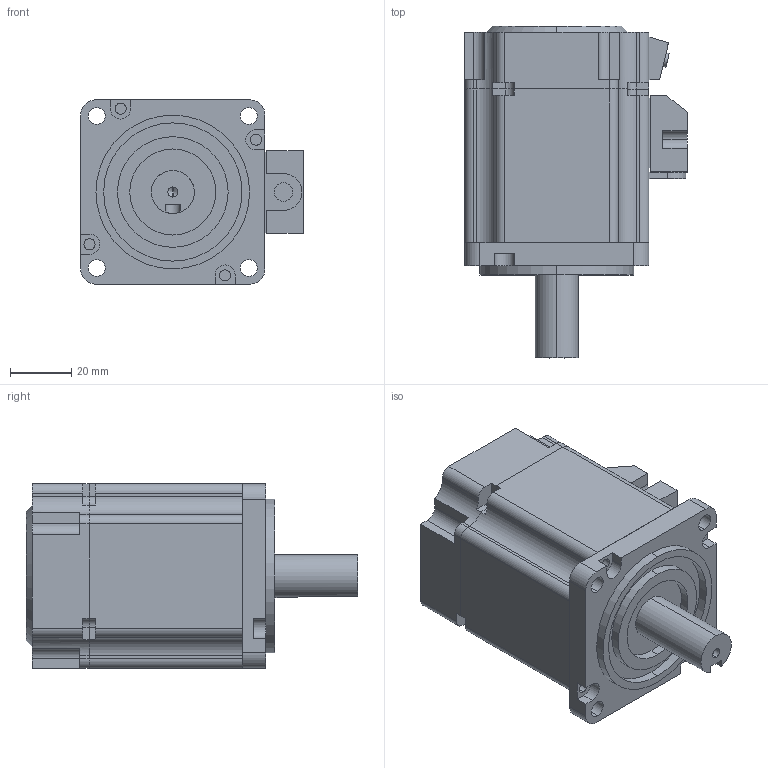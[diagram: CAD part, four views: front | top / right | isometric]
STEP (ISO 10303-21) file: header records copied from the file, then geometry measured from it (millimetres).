
FILE_DESCRIPTION (( 'STEP AP214' ), '1' );
FILE_NAME ('TSM60JP200-48-5-N.STEP', '2020-12-11T08:12:14', ( '' ), ( '' ), 'SwSTEP 2.0', 'SolidWorks 2020', '' );
FILE_SCHEMA (( 'AUTOMOTIVE_DESIGN' ));
Length unit declared in the file: millimetre
Products named in the file (3): ヶ裔; TSM60JP200-48-5-N; 綴裔
Assembly tree (2 placements, depth 2):
  TSM60JP200-48-5-N
    綴裔
    ヶ裔
Bounding box: 72.5 x 108 x 60 mm (x, y, z)
Volume: 258961.3 mm3; surface area: 45545.2 mm2
Topology: 4 solids, 4 shells, 242 faces, 655 edges, 431 vertices
Faces by surface type: plane 124, cylinder 110, cone 8
Entity records: 7874 total; most frequent: DIRECTION 1376, CARTESIAN_POINT 1359, ORIENTED_EDGE 1298, EDGE_CURVE 649, AXIS2_PLACEMENT_3D 482, VERTEX_POINT 431, LINE 412, VECTOR 412
